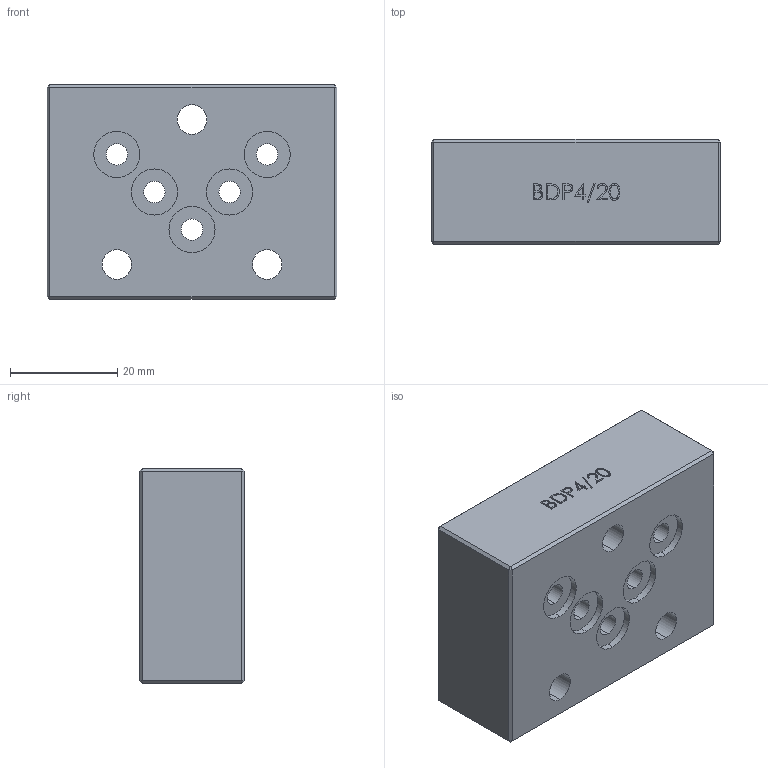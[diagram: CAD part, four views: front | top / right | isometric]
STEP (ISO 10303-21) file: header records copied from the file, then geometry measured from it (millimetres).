
FILE_DESCRIPTION (( 'STEP AP214' ), '1' );
FILE_NAME ('BDP4_20.STEP', '2017-04-26T06:23:49', ( '' ), ( '' ), 'SwSTEP 2.0', 'SolidWorks 2016', '' );
FILE_SCHEMA (( 'AUTOMOTIVE_DESIGN' ));
Length unit declared in the file: millimetre
Products named in the file (1): BDP4_20
Bounding box: 54 x 19.5 x 40 mm (x, y, z)
Volume: 39146.1 mm3; surface area: 9962.7 mm2
Topology: 1 solids, 1 shells, 153 faces, 375 edges, 242 vertices
Faces by surface type: plane 90, bspline 37, cylinder 26
Entity records: 6809 total; most frequent: CARTESIAN_POINT 3344, ORIENTED_EDGE 750, DIRECTION 587, EDGE_CURVE 375, VECTOR 249, LINE 249, VERTEX_POINT 242, EDGE_LOOP 187
